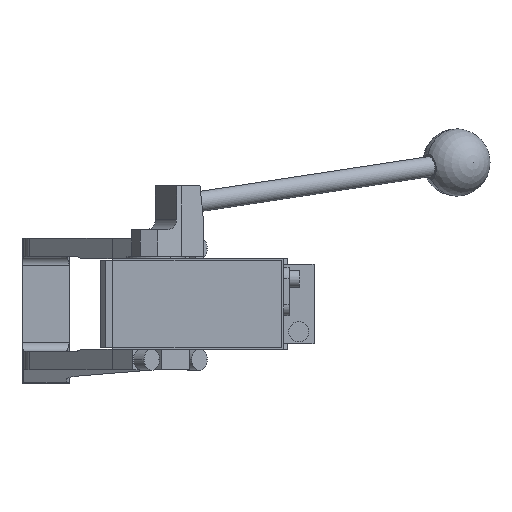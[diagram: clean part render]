
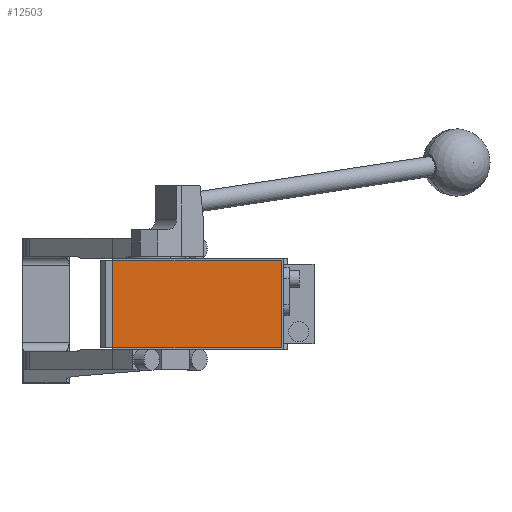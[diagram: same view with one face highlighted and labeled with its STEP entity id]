
A CAD part, front view. The second image highlights one B-rep face of the part: STEP entity #12503.
In plain terms, the highlighted planar face has unit normal (0, -1, 0).
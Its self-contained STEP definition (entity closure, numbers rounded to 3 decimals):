
#480 = CARTESIAN_POINT ( 'NONE',  ( -19., -286.5, 26. ) ) ;
#1044 = VECTOR ( 'NONE', #10003, 1000. ) ;
#1535 = ORIENTED_EDGE ( 'NONE', *, *, #5686, .T. ) ;
#1785 = ORIENTED_EDGE ( 'NONE', *, *, #8780, .T. ) ;
#1823 = CARTESIAN_POINT ( 'NONE',  ( 0., -286.5, 0. ) ) ;
#2089 = ORIENTED_EDGE ( 'NONE', *, *, #11852, .T. ) ;
#2277 = CARTESIAN_POINT ( 'NONE',  ( -19., -286.5, 26. ) ) ;
#2553 = AXIS2_PLACEMENT_3D ( 'NONE', #1823, #4049, #10979 ) ;
#2963 = DIRECTION ( 'NONE',  ( 1., 0., 0. ) ) ;
#3175 = VERTEX_POINT ( 'NONE', #6496 ) ;
#3226 = VECTOR ( 'NONE', #7606, 1000. ) ;
#3813 = ORIENTED_EDGE ( 'NONE', *, *, #12691, .T. ) ;
#4049 = DIRECTION ( 'NONE',  ( 0., -1., 0. ) ) ;
#4100 = CARTESIAN_POINT ( 'NONE',  ( -19., -286.5, 26. ) ) ;
#4105 = CARTESIAN_POINT ( 'NONE',  ( -19., -286.5, -26. ) ) ;
#5195 = PLANE ( 'NONE',  #2553 ) ;
#5686 = EDGE_CURVE ( 'NONE', #13809, #10331, #7296, .T. ) ;
#6496 = CARTESIAN_POINT ( 'NONE',  ( -19., -286.5, -26. ) ) ;
#6850 = VERTEX_POINT ( 'NONE', #13378 ) ;
#7296 = LINE ( 'NONE', #4100, #3226 ) ;
#7382 = CARTESIAN_POINT ( 'NONE',  ( 81., -286.5, 26. ) ) ;
#7606 = DIRECTION ( 'NONE',  ( -1., 0., 0. ) ) ;
#8780 = EDGE_CURVE ( 'NONE', #3175, #6850, #8907, .T. ) ;
#8907 = LINE ( 'NONE', #4105, #14284 ) ;
#8917 = EDGE_LOOP ( 'NONE', ( #3813, #1785, #2089, #1535 ) ) ;
#10003 = DIRECTION ( 'NONE',  ( 0., 0., 1. ) ) ;
#10157 = LINE ( 'NONE', #14806, #1044 ) ;
#10331 = VERTEX_POINT ( 'NONE', #480 ) ;
#10979 = DIRECTION ( 'NONE',  ( 0., 0., -1. ) ) ;
#11600 = DIRECTION ( 'NONE',  ( 0., 0., -1. ) ) ;
#11852 = EDGE_CURVE ( 'NONE', #6850, #13809, #10157, .T. ) ;
#12503 = ADVANCED_FACE ( 'NONE', ( #13493 ), #5195, .T. ) ;
#12691 = EDGE_CURVE ( 'NONE', #10331, #3175, #12809, .T. ) ;
#12809 = LINE ( 'NONE', #2277, #14227 ) ;
#13378 = CARTESIAN_POINT ( 'NONE',  ( 81., -286.5, -26. ) ) ;
#13493 = FACE_OUTER_BOUND ( 'NONE', #8917, .T. ) ;
#13809 = VERTEX_POINT ( 'NONE', #7382 ) ;
#14227 = VECTOR ( 'NONE', #11600, 1000. ) ;
#14284 = VECTOR ( 'NONE', #2963, 1000. ) ;
#14806 = CARTESIAN_POINT ( 'NONE',  ( 81., -286.5, 26. ) ) ;
